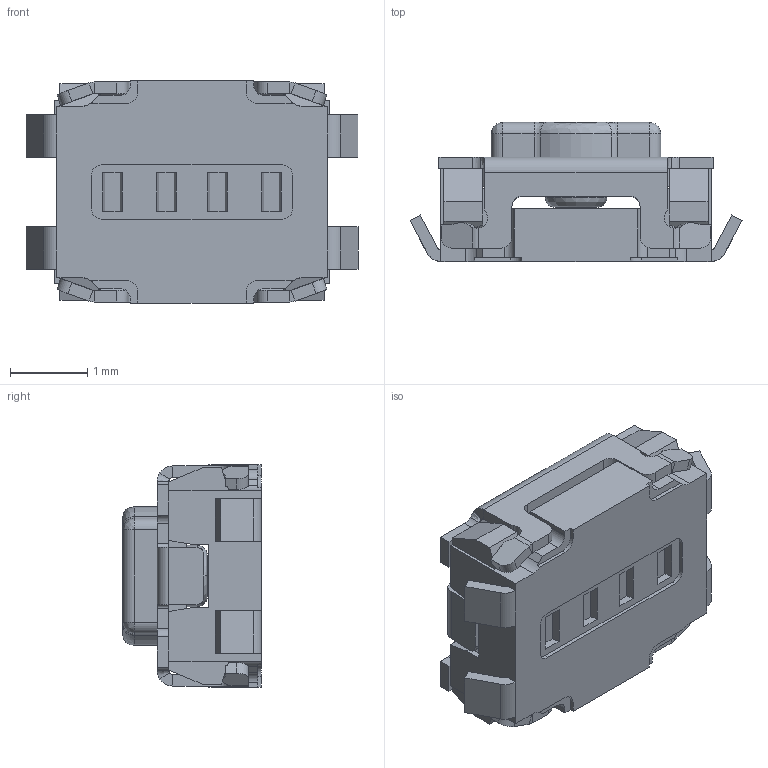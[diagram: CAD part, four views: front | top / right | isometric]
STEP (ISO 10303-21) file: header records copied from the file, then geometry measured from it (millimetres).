
FILE_DESCRIPTION (( 'STEP AP214' ), '1' );
FILE_NAME ('GT-TS034X-HXXX-LX.STEP', '2025-06-14T02:54:38', ( '' ), ( '' ), 'SwSTEP 2.0', 'SolidWorks 2023', '' );
FILE_SCHEMA (( 'AUTOMOTIVE_DESIGN' ));
Length unit declared in the file: millimetre
Products named in the file (1): GT-TS034X-HXXX-LX
Bounding box: 4.3 x 1.8 x 2.88 mm (x, y, z)
Volume: 11.5 mm3; surface area: 74 mm2
Topology: 1 solids, 1 shells, 668 faces, 1895 edges, 1228 vertices
Faces by surface type: plane 456, cylinder 118, bspline 94
Entity records: 25262 total; most frequent: CARTESIAN_POINT 8388, ORIENTED_EDGE 3782, DIRECTION 3091, EDGE_CURVE 1891, LINE 1437, VECTOR 1437, VERTEX_POINT 1228, AXIS2_PLACEMENT_3D 827
